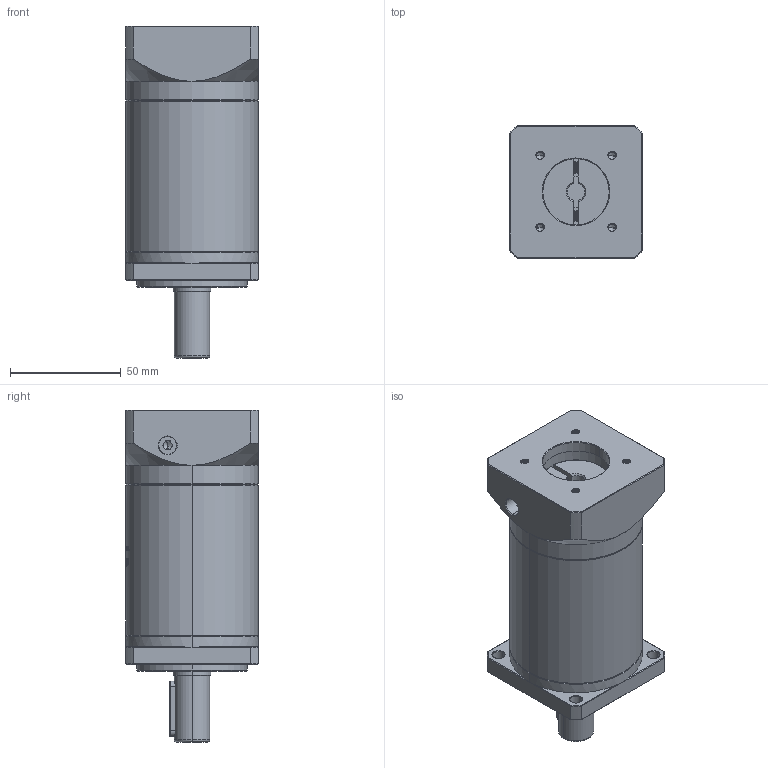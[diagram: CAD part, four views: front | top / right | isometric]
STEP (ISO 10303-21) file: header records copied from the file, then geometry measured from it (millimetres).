
FILE_DESCRIPTION (( 'STEP AP214' ), '1' );
FILE_NAME ('ZF60-D16-L3-8-30-46-M4.STEP', '2022-04-17T11:26:54', ( '' ), ( 'Microsoft' ), 'SwSTEP 2.0', 'SolidWorks 2016', '' );
FILE_SCHEMA (( 'AUTOMOTIVE_DESIGN' ));
Length unit declared in the file: millimetre
Products named in the file (1): ZF60-D16-L3-8-30-46-M4
Bounding box: 60 x 60 x 150 mm (x, y, z)
Volume: 328884.3 mm3; surface area: 51242.3 mm2
Topology: 6 solids, 6 shells, 1617 faces, 4372 edges, 2831 vertices
Faces by surface type: plane 744, cylinder 327, bspline 299, cone 229, torus 18
Entity records: 88904 total; most frequent: CARTESIAN_POINT 34142, ORIENTED_EDGE 8716, DIRECTION 6393, EDGE_CURVE 4358, VERTEX_POINT 2831, VECTOR 2213, LINE 2213, AXIS2_PLACEMENT_3D 2090
